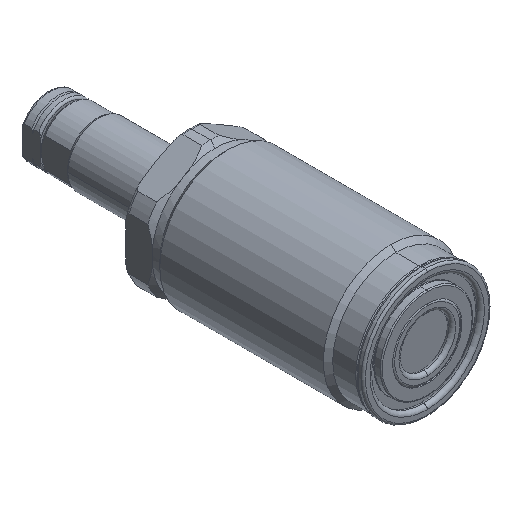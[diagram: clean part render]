
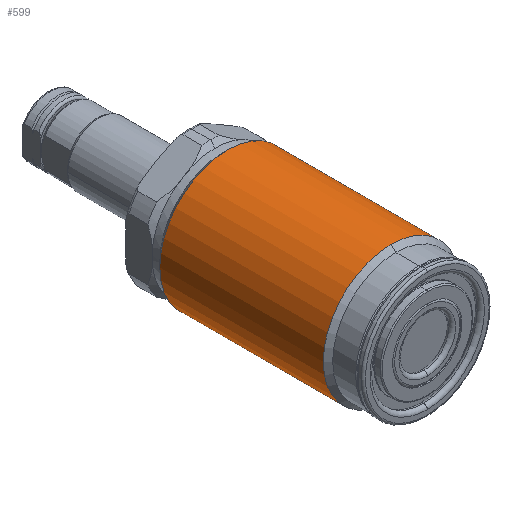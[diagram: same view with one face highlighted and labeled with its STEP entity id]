
A CAD part, isometric view. The second image highlights one B-rep face of the part: STEP entity #599.
In plain terms, the highlighted cylindrical face has radius 13 mm (diameter 26 mm), a full revolution.
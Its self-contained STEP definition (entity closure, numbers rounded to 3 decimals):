
#291=FACE_BOUND('',#968,.T.);
#292=FACE_BOUND('',#969,.T.);
#327=CYLINDRICAL_SURFACE('',#2782,13.);
#385=LINE('',#4182,#481);
#386=LINE('',#4185,#482);
#387=LINE('',#4187,#483);
#388=LINE('',#4192,#484);
#481=VECTOR('',#3320,1.);
#482=VECTOR('',#3323,1.);
#483=VECTOR('',#3324,1.);
#484=VECTOR('',#3327,1.);
#599=ADVANCED_FACE('',(#291,#292),#327,.T.);
#968=EDGE_LOOP('',(#1304,#1305,#1306,#1307,#1308,#1309));
#969=EDGE_LOOP('',(#1310,#1311,#1312,#1313,#1314,#1315));
#1304=ORIENTED_EDGE('',*,*,#2173,.T.);
#1305=ORIENTED_EDGE('',*,*,#2174,.T.);
#1306=ORIENTED_EDGE('',*,*,#2174,.F.);
#1307=ORIENTED_EDGE('',*,*,#2175,.T.);
#1308=ORIENTED_EDGE('',*,*,#2176,.T.);
#1309=ORIENTED_EDGE('',*,*,#2176,.F.);
#1310=ORIENTED_EDGE('',*,*,#2177,.T.);
#1311=ORIENTED_EDGE('',*,*,#2178,.T.);
#1312=ORIENTED_EDGE('',*,*,#2179,.F.);
#1313=ORIENTED_EDGE('',*,*,#2179,.T.);
#1314=ORIENTED_EDGE('',*,*,#2180,.T.);
#1315=ORIENTED_EDGE('',*,*,#2177,.F.);
#1904=VERTEX_POINT('',#4180);
#1905=VERTEX_POINT('',#4181);
#1906=VERTEX_POINT('',#4183);
#1907=VERTEX_POINT('',#4186);
#1908=VERTEX_POINT('',#4188);
#1909=VERTEX_POINT('',#4189);
#1910=VERTEX_POINT('',#4191);
#1911=VERTEX_POINT('',#4193);
#2173=EDGE_CURVE('',#1904,#1905,#2512,.T.);
#2174=EDGE_CURVE('',#1905,#1906,#385,.T.);
#2175=EDGE_CURVE('',#1905,#1904,#2513,.T.);
#2176=EDGE_CURVE('',#1904,#1907,#386,.T.);
#2177=EDGE_CURVE('',#1908,#1909,#387,.T.);
#2178=EDGE_CURVE('',#1909,#1910,#2514,.T.);
#2179=EDGE_CURVE('',#1911,#1910,#388,.T.);
#2180=EDGE_CURVE('',#1910,#1909,#2515,.T.);
#2512=CIRCLE('',#2778,13.);
#2513=CIRCLE('',#2779,13.);
#2514=CIRCLE('',#2780,13.);
#2515=CIRCLE('',#2781,13.);
#2778=AXIS2_PLACEMENT_3D('',#4179,#3318,#3319);
#2779=AXIS2_PLACEMENT_3D('',#4184,#3321,#3322);
#2780=AXIS2_PLACEMENT_3D('',#4190,#3325,#3326);
#2781=AXIS2_PLACEMENT_3D('',#4194,#3328,#3329);
#2782=AXIS2_PLACEMENT_3D('',#4195,#3330,#3331);
#3318=DIRECTION('',(0.,1.,0.));
#3319=DIRECTION('',(0.,0.,1.));
#3320=DIRECTION('',(0.,1.,0.));
#3321=DIRECTION('',(0.,1.,0.));
#3322=DIRECTION('',(0.,0.,1.));
#3323=DIRECTION('',(0.,1.,0.));
#3324=DIRECTION('',(0.,1.,0.));
#3325=DIRECTION('',(0.,-1.,0.));
#3326=DIRECTION('',(0.,0.,1.));
#3327=DIRECTION('',(0.,1.,0.));
#3328=DIRECTION('',(0.,-1.,0.));
#3329=DIRECTION('',(0.,0.,1.));
#3330=DIRECTION('',(0.,1.,0.));
#3331=DIRECTION('',(0.,0.,-1.));
#4179=CARTESIAN_POINT('',(0.,5.6,0.));
#4180=CARTESIAN_POINT('',(0.,5.6,13.));
#4181=CARTESIAN_POINT('',(0.,5.6,-13.));
#4182=CARTESIAN_POINT('',(0.,34.3,-13.));
#4183=CARTESIAN_POINT('',(0.,30.3,-13.));
#4184=CARTESIAN_POINT('',(0.,5.6,0.));
#4185=CARTESIAN_POINT('',(0.,34.3,13.));
#4186=CARTESIAN_POINT('',(0.,30.3,13.));
#4187=CARTESIAN_POINT('',(0.,34.3,13.));
#4188=CARTESIAN_POINT('',(0.,36.3,13.));
#4189=CARTESIAN_POINT('',(0.,36.9,13.));
#4190=CARTESIAN_POINT('',(0.,36.9,0.));
#4191=CARTESIAN_POINT('',(0.,36.9,-13.));
#4192=CARTESIAN_POINT('',(0.,34.3,-13.));
#4193=CARTESIAN_POINT('',(0.,36.3,-13.));
#4194=CARTESIAN_POINT('',(0.,36.9,0.));
#4195=CARTESIAN_POINT('',(0.,34.3,0.));
